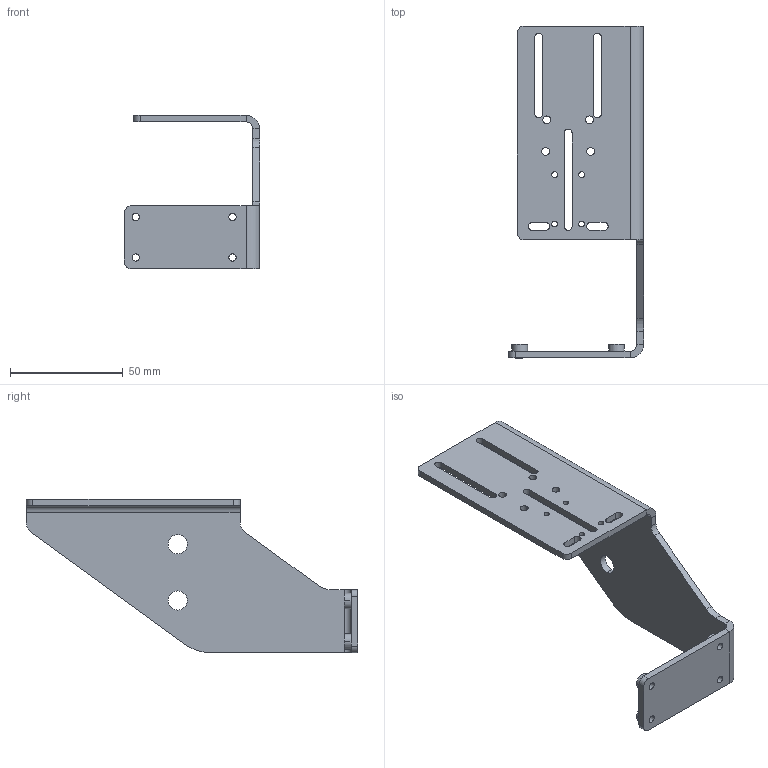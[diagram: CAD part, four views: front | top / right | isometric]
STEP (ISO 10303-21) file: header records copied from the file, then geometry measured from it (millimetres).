
FILE_DESCRIPTION (( 'STEP AP214' ), '1' );
FILE_NAME ('005789.STEP', '2014-03-14T09:46:40', ( '' ), ( '' ), 'SwSTEP 2.0', 'SolidWorks 2013', '' );
FILE_SCHEMA (( 'AUTOMOTIVE_DESIGN' ));
Length unit declared in the file: millimetre
Products named in the file (1): 005789
Bounding box: 60 x 147.32 x 68.2 mm (x, y, z)
Volume: 36565.6 mm3; surface area: 27662.7 mm2
Topology: 1 solids, 1 shells, 96 faces, 254 edges, 164 vertices
Faces by surface type: cylinder 60, plane 36
Entity records: 3120 total; most frequent: DIRECTION 568, CARTESIAN_POINT 515, ORIENTED_EDGE 508, EDGE_CURVE 254, AXIS2_PLACEMENT_3D 217, VERTEX_POINT 164, EDGE_LOOP 138, LINE 134
